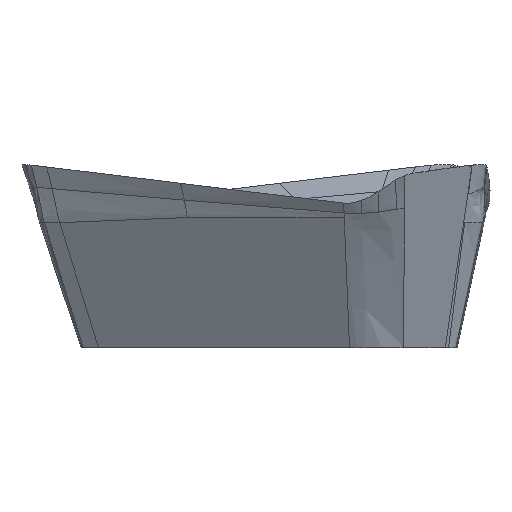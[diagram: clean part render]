
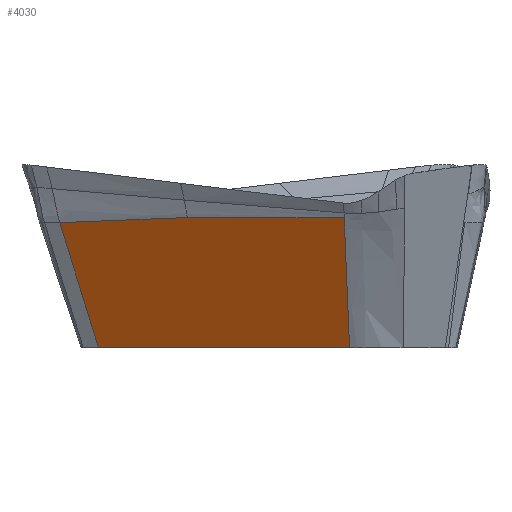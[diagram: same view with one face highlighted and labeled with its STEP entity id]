
A CAD part, left-side view. The second image highlights one B-rep face of the part: STEP entity #4030.
In plain terms, the highlighted free-form (B-spline) face has degree [5, 5] with [6, 6] control points.
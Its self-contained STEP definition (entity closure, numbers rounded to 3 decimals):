
#1744=CARTESIAN_POINT('Vertex',(-3.951,-0.721,0.)) ;
#1748=CARTESIAN_POINT('Control Point',(-0.769,4.736,0.)) ;
#1749=CARTESIAN_POINT('Control Point',(-1.406,3.645,0.)) ;
#1750=CARTESIAN_POINT('Control Point',(-2.042,2.553,0.)) ;
#1751=CARTESIAN_POINT('Control Point',(-2.678,1.462,0.)) ;
#1752=CARTESIAN_POINT('Control Point',(-3.315,0.37,0.)) ;
#1753=CARTESIAN_POINT('Control Point',(-3.951,-0.721,0.)) ;
#1754=CARTESIAN_POINT('Vertex',(-0.769,4.736,0.)) ;
#3890=CARTESIAN_POINT('Vertex',(-4.584,-0.606,2.816)) ;
#3896=CARTESIAN_POINT('Control Point',(-3.951,-0.721,0.)) ;
#3897=CARTESIAN_POINT('Control Point',(-4.015,-0.709,0.282)) ;
#3898=CARTESIAN_POINT('Control Point',(-4.078,-0.698,0.563)) ;
#3899=CARTESIAN_POINT('Control Point',(-4.141,-0.686,0.845)) ;
#3900=CARTESIAN_POINT('Control Point',(-4.236,-0.669,1.267)) ;
#3901=CARTESIAN_POINT('Control Point',(-4.331,-0.652,1.69)) ;
#3902=CARTESIAN_POINT('Control Point',(-4.363,-0.646,1.83)) ;
#3903=CARTESIAN_POINT('Control Point',(-4.41,-0.637,2.042)) ;
#3904=CARTESIAN_POINT('Control Point',(-4.457,-0.629,2.253)) ;
#3905=CARTESIAN_POINT('Control Point',(-4.473,-0.626,2.323)) ;
#3906=CARTESIAN_POINT('Control Point',(-4.505,-0.62,2.464)) ;
#3907=CARTESIAN_POINT('Control Point',(-4.536,-0.614,2.605)) ;
#3908=CARTESIAN_POINT('Control Point',(-4.549,-0.613,2.676)) ;
#3909=CARTESIAN_POINT('Control Point',(-4.572,-0.607,2.745)) ;
#3910=CARTESIAN_POINT('Control Point',(-4.584,-0.606,2.816)) ;
#3958=CARTESIAN_POINT('Control Point',(-0.999,5.67,3.116)) ;
#3959=CARTESIAN_POINT('Control Point',(-0.87,5.623,2.489)) ;
#3960=CARTESIAN_POINT('Control Point',(-0.741,5.577,1.861)) ;
#3961=CARTESIAN_POINT('Control Point',(-0.613,5.53,1.234)) ;
#3962=CARTESIAN_POINT('Control Point',(-0.484,5.483,0.607)) ;
#3963=CARTESIAN_POINT('Control Point',(-0.356,5.436,-0.02)) ;
#3964=CARTESIAN_POINT('Control Point',(-1.724,4.403,3.061)) ;
#3965=CARTESIAN_POINT('Control Point',(-1.595,4.356,2.434)) ;
#3966=CARTESIAN_POINT('Control Point',(-1.467,4.31,1.807)) ;
#3967=CARTESIAN_POINT('Control Point',(-1.338,4.263,1.18)) ;
#3968=CARTESIAN_POINT('Control Point',(-1.21,4.216,0.553)) ;
#3969=CARTESIAN_POINT('Control Point',(-1.081,4.169,-0.075)) ;
#3970=CARTESIAN_POINT('Control Point',(-2.449,3.136,3.007)) ;
#3971=CARTESIAN_POINT('Control Point',(-2.321,3.089,2.38)) ;
#3972=CARTESIAN_POINT('Control Point',(-2.192,3.042,1.753)) ;
#3973=CARTESIAN_POINT('Control Point',(-2.064,2.996,1.125)) ;
#3974=CARTESIAN_POINT('Control Point',(-1.935,2.949,0.498)) ;
#3975=CARTESIAN_POINT('Control Point',(-1.806,2.902,-0.129)) ;
#3976=CARTESIAN_POINT('Control Point',(-3.175,1.869,2.953)) ;
#3977=CARTESIAN_POINT('Control Point',(-3.046,1.822,2.325)) ;
#3978=CARTESIAN_POINT('Control Point',(-2.918,1.775,1.698)) ;
#3979=CARTESIAN_POINT('Control Point',(-2.789,1.729,1.071)) ;
#3980=CARTESIAN_POINT('Control Point',(-2.66,1.682,0.444)) ;
#3981=CARTESIAN_POINT('Control Point',(-2.532,1.635,-0.183)) ;
#3982=CARTESIAN_POINT('Control Point',(-3.9,0.602,2.898)) ;
#3983=CARTESIAN_POINT('Control Point',(-3.772,0.555,2.271)) ;
#3984=CARTESIAN_POINT('Control Point',(-3.643,0.508,1.644)) ;
#3985=CARTESIAN_POINT('Control Point',(-3.514,0.461,1.017)) ;
#3986=CARTESIAN_POINT('Control Point',(-3.386,0.415,0.389)) ;
#3987=CARTESIAN_POINT('Control Point',(-3.257,0.368,-0.238)) ;
#3988=CARTESIAN_POINT('Control Point',(-4.626,-0.666,2.844)) ;
#3989=CARTESIAN_POINT('Control Point',(-4.497,-0.712,2.217)) ;
#3990=CARTESIAN_POINT('Control Point',(-4.368,-0.759,1.59)) ;
#3991=CARTESIAN_POINT('Control Point',(-4.24,-0.806,0.962)) ;
#3992=CARTESIAN_POINT('Control Point',(-4.111,-0.852,0.335)) ;
#3993=CARTESIAN_POINT('Control Point',(-3.983,-0.899,-0.292)) ;
#3995=CARTESIAN_POINT('Control Point',(-2.599,2.801,2.825)) ;
#3996=CARTESIAN_POINT('Control Point',(-3.261,1.666,2.822)) ;
#3997=CARTESIAN_POINT('Control Point',(-3.922,0.53,2.819)) ;
#3998=CARTESIAN_POINT('Control Point',(-4.584,-0.606,2.816)) ;
#3999=CARTESIAN_POINT('Vertex',(-2.599,2.801,2.825)) ;
#4003=CARTESIAN_POINT('Control Point',(-2.595,2.809,2.825)) ;
#4004=CARTESIAN_POINT('Control Point',(-2.599,2.801,2.825)) ;
#4005=CARTESIAN_POINT('Vertex',(-2.595,2.809,2.825)) ;
#4009=CARTESIAN_POINT('Control Point',(-0.952,5.578,2.714)) ;
#4010=CARTESIAN_POINT('Control Point',(-1.496,4.652,2.729)) ;
#4011=CARTESIAN_POINT('Control Point',(-2.054,3.738,2.827)) ;
#4012=CARTESIAN_POINT('Control Point',(-2.595,2.809,2.825)) ;
#4013=CARTESIAN_POINT('Vertex',(-0.952,5.578,2.714)) ;
#4017=CARTESIAN_POINT('Control Point',(-0.769,4.736,0.)) ;
#4018=CARTESIAN_POINT('Control Point',(-0.83,5.017,0.905)) ;
#4019=CARTESIAN_POINT('Control Point',(-0.891,5.297,1.809)) ;
#4020=CARTESIAN_POINT('Control Point',(-0.952,5.578,2.714)) ;
#4023=ORIENTED_EDGE('',*,*,#1756,.F.) ;
#4024=ORIENTED_EDGE('',*,*,#3911,.T.) ;
#4025=ORIENTED_EDGE('',*,*,#4001,.T.) ;
#4026=ORIENTED_EDGE('',*,*,#4007,.F.) ;
#4027=ORIENTED_EDGE('',*,*,#4015,.F.) ;
#4028=ORIENTED_EDGE('',*,*,#4021,.T.) ;
#4030=ADVANCED_FACE('CUT',(#4029),#3957,.F.) ;
#1747=B_SPLINE_CURVE_WITH_KNOTS('',5,(#1748,#1749,#1750,#1751,#1752,#1753),.UNSPECIFIED.,.F.,.U.,(6,6),(0.,8.933),.UNSPECIFIED.) ;
#3895=B_SPLINE_CURVE_WITH_KNOTS('',5,(#3896,#3897,#3898,#3899,#3900,#3901,#3902,#3903,#3904,#3905,#3906,#3907,#3908,#3909,#3910),.UNSPECIFIED.,.F.,.U.,(6,3,3,3,6),(0.,2.043,3.065,3.576,4.087),.UNSPECIFIED.) ;
#3994=B_SPLINE_CURVE_WITH_KNOTS('',3,(#3995,#3996,#3997,#3998),.UNSPECIFIED.,.F.,.U.,(4,4),(-1.972,1.972),.UNSPECIFIED.) ;
#4002=B_SPLINE_CURVE_WITH_KNOTS('',1,(#4003,#4004),.UNSPECIFIED.,.F.,.U.,(2,2),(-0.004,0.004),.UNSPECIFIED.) ;
#4008=B_SPLINE_CURVE_WITH_KNOTS('',3,(#4009,#4010,#4011,#4012),.UNSPECIFIED.,.F.,.U.,(4,4),(0.,4.557),.UNSPECIFIED.) ;
#4016=B_SPLINE_CURVE_WITH_KNOTS('',3,(#4017,#4018,#4019,#4020),.UNSPECIFIED.,.F.,.U.,(4,4),(-1.424,1.424),.UNSPECIFIED.) ;
#3957=B_SPLINE_SURFACE_WITH_KNOTS('',5,5,((#3958,#3959,#3960,#3961,#3962,#3963),(#3964,#3965,#3966,#3967,#3968,#3969),(#3970,#3971,#3972,#3973,#3974,#3975),(#3976,#3977,#3978,#3979,#3980,#3981),(#3982,#3983,#3984,#3985,#3986,#3987),(#3988,#3989,#3990,#3991,#3992,#3993)),.UNSPECIFIED.,.F.,.F.,.U.,(6,6),(6,6),(-3.637,3.668),(-1.15,2.06),.UNSPECIFIED.) ;
#1756=EDGE_CURVE('',#1745,#1755,#1747,.F.) ;
#3911=EDGE_CURVE('',#1745,#3891,#3895,.T.) ;
#4001=EDGE_CURVE('',#3891,#4000,#3994,.F.) ;
#4007=EDGE_CURVE('',#4006,#4000,#4002,.T.) ;
#4015=EDGE_CURVE('',#4014,#4006,#4008,.T.) ;
#4021=EDGE_CURVE('',#4014,#1755,#4016,.F.) ;
#4022=EDGE_LOOP('',(#4023,#4024,#4025,#4026,#4027,#4028)) ;
#4029=FACE_OUTER_BOUND('',#4022,.T.) ;
#1745=VERTEX_POINT('',#1744) ;
#1755=VERTEX_POINT('',#1754) ;
#3891=VERTEX_POINT('',#3890) ;
#4000=VERTEX_POINT('',#3999) ;
#4006=VERTEX_POINT('',#4005) ;
#4014=VERTEX_POINT('',#4013) ;
